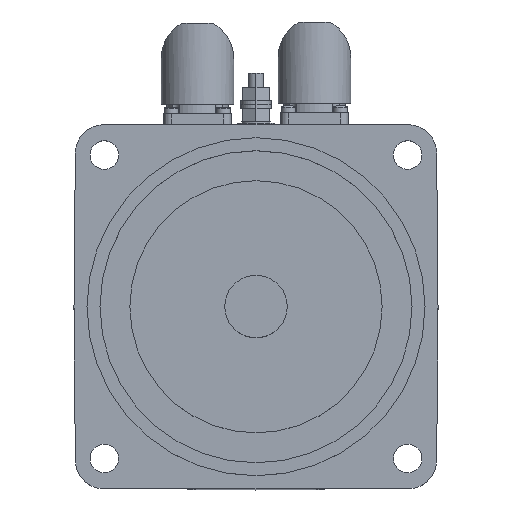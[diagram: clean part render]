
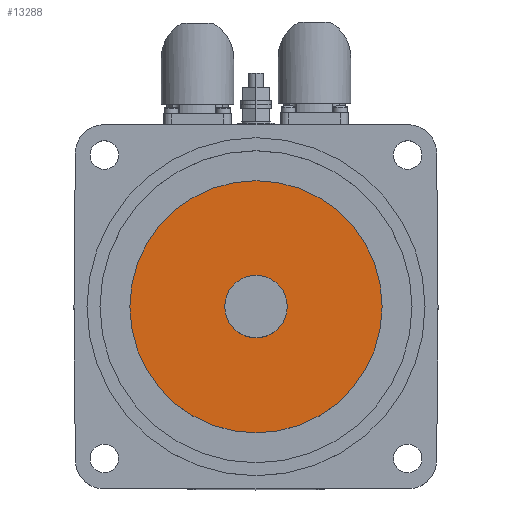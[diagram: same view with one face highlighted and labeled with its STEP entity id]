
A CAD part, top view. The second image highlights one B-rep face of the part: STEP entity #13288.
In plain terms, the highlighted planar face has unit normal (0, 0, 1).
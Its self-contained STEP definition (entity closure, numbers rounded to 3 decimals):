
#37 = CARTESIAN_POINT ( 'NONE',  ( 48.5, 0., -4.5 ) ) ;
#45 = CARTESIAN_POINT ( 'NONE',  ( -48.5, 0., -4.5 ) ) ;
#61 = CARTESIAN_POINT ( 'NONE',  ( -12., 0., -4.5 ) ) ;
#62 = CARTESIAN_POINT ( 'NONE',  ( 12., 0., -4.5 ) ) ;
#998 = CARTESIAN_POINT ( 'NONE',  ( 0., 0., -4.5 ) ) ;
#1007 = DIRECTION ( 'NONE',  ( 0., 0., 1. ) ) ;
#1008 = DIRECTION ( 'NONE',  ( -1., 0., 0. ) ) ;
#1102 = CARTESIAN_POINT ( 'NONE',  ( 0., 0., -4.5 ) ) ;
#1104 = DIRECTION ( 'NONE',  ( 0., 0., -1. ) ) ;
#1105 = DIRECTION ( 'NONE',  ( -1., 0., 0. ) ) ;
#1156 = CARTESIAN_POINT ( 'NONE',  ( 0., 0., -4.5 ) ) ;
#1157 = DIRECTION ( 'NONE',  ( 0., 0., -1. ) ) ;
#1158 = DIRECTION ( 'NONE',  ( -1., 0., 0. ) ) ;
#1176 = CARTESIAN_POINT ( 'NONE',  ( 0., 0., -4.5 ) ) ;
#1179 = DIRECTION ( 'NONE',  ( 0., 0., 1. ) ) ;
#1180 = DIRECTION ( 'NONE',  ( -1., 0., 0. ) ) ;
#3096 = FACE_OUTER_BOUND ( 'NONE', #14474, .T. ) ;
#3101 = FACE_BOUND ( 'NONE', #14472, .T. ) ;
#4606 = CARTESIAN_POINT ( 'NONE',  ( 0., 48.5, -4.5 ) ) ;
#4607 = PLANE ( 'NONE',  #8980 ) ;
#4608 = DIRECTION ( 'NONE',  ( 0., 0., -1. ) ) ;
#4609 = DIRECTION ( 'NONE',  ( -1., 0., 0. ) ) ;
#8572 = AXIS2_PLACEMENT_3D ( 'NONE', #998, #1007, #1008 ) ;
#8597 = AXIS2_PLACEMENT_3D ( 'NONE', #1102, #1104, #1105 ) ;
#8604 = AXIS2_PLACEMENT_3D ( 'NONE', #1176, #1179, #1180 ) ;
#8606 = AXIS2_PLACEMENT_3D ( 'NONE', #1156, #1157, #1158 ) ;
#8980 = AXIS2_PLACEMENT_3D ( 'NONE', #4606, #4608, #4609 ) ;
#9304 = ORIENTED_EDGE ( 'NONE', *, *, #12585, .F. ) ;
#9318 = ORIENTED_EDGE ( 'NONE', *, *, #12554, .F. ) ;
#9938 = CIRCLE ( 'NONE', #8572, 12. ) ;
#9982 = CIRCLE ( 'NONE', #8597, 48.5 ) ;
#10017 = CIRCLE ( 'NONE', #8606, 48.5 ) ;
#10034 = CIRCLE ( 'NONE', #8604, 12. ) ;
#11753 = VERTEX_POINT ( 'NONE', #62 ) ;
#11754 = VERTEX_POINT ( 'NONE', #61 ) ;
#11759 = VERTEX_POINT ( 'NONE', #45 ) ;
#11760 = VERTEX_POINT ( 'NONE', #37 ) ;
#12518 = EDGE_CURVE ( 'NONE', #11753, #11754, #9938, .T. ) ;
#12554 = EDGE_CURVE ( 'NONE', #11759, #11760, #9982, .T. ) ;
#12576 = EDGE_CURVE ( 'NONE', #11760, #11759, #10017, .T. ) ;
#12585 = EDGE_CURVE ( 'NONE', #11754, #11753, #10034, .T. ) ;
#13288 = ADVANCED_FACE ( 'NONE', ( #3096, #3101 ), #4607, .F. ) ;
#14270 = ORIENTED_EDGE ( 'NONE', *, *, #12518, .F. ) ;
#14472 = EDGE_LOOP ( 'NONE', ( #9304, #14270 ) ) ;
#14474 = EDGE_LOOP ( 'NONE', ( #9318, #14650 ) ) ;
#14650 = ORIENTED_EDGE ( 'NONE', *, *, #12576, .F. ) ;
